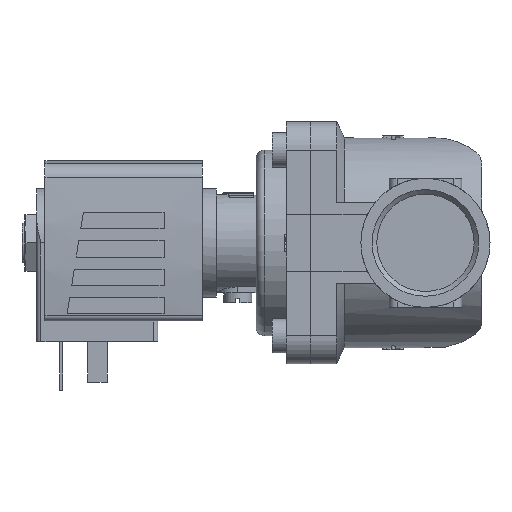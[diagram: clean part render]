
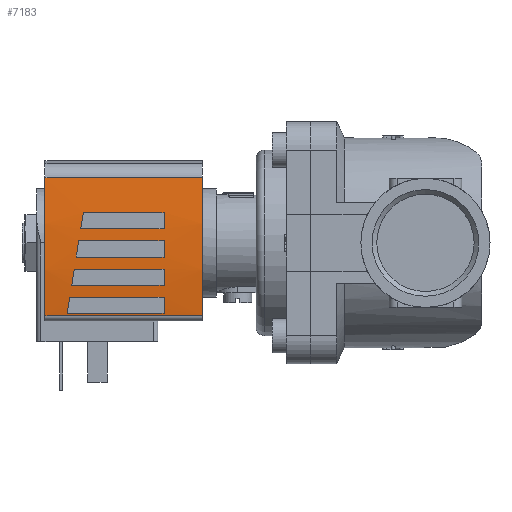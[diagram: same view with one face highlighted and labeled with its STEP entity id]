
A CAD part, left-side view. The second image highlights one B-rep face of the part: STEP entity #7183.
In plain terms, the highlighted cylindrical face has radius 130 mm (diameter 260 mm), a partial arc.
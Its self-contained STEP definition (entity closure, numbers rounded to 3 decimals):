
#167=ELLIPSE('',#7777,131.653,130.);
#168=ELLIPSE('',#7779,131.653,130.);
#169=ELLIPSE('',#7782,131.653,130.);
#170=ELLIPSE('',#7784,131.653,130.);
#809=LINE('',#11265,#1323);
#811=LINE('',#11285,#1325);
#812=LINE('',#11289,#1326);
#813=LINE('',#11290,#1327);
#814=LINE('',#11295,#1328);
#815=LINE('',#11300,#1329);
#816=LINE('',#11304,#1330);
#817=LINE('',#11308,#1331);
#818=LINE('',#11312,#1332);
#819=LINE('',#11316,#1333);
#1323=VECTOR('',#9256,1000.);
#1325=VECTOR('',#9278,1000.);
#1326=VECTOR('',#9281,1000.);
#1327=VECTOR('',#9282,1000.);
#1328=VECTOR('',#9285,1000.);
#1329=VECTOR('',#9290,1000.);
#1330=VECTOR('',#9293,1000.);
#1331=VECTOR('',#9296,1000.);
#1332=VECTOR('',#9299,1000.);
#1333=VECTOR('',#9302,1000.);
#2763=ORIENTED_EDGE('',*,*,#3828,.F.);
#2764=ORIENTED_EDGE('',*,*,#3829,.F.);
#2765=ORIENTED_EDGE('',*,*,#3830,.F.);
#2766=ORIENTED_EDGE('',*,*,#3831,.F.);
#2767=ORIENTED_EDGE('',*,*,#3832,.F.);
#2768=ORIENTED_EDGE('',*,*,#3833,.F.);
#2769=ORIENTED_EDGE('',*,*,#3834,.F.);
#2770=ORIENTED_EDGE('',*,*,#3835,.F.);
#2771=ORIENTED_EDGE('',*,*,#3836,.T.);
#2772=ORIENTED_EDGE('',*,*,#3837,.F.);
#2773=ORIENTED_EDGE('',*,*,#3822,.F.);
#2774=ORIENTED_EDGE('',*,*,#3819,.T.);
#2775=ORIENTED_EDGE('',*,*,#3838,.F.);
#2776=ORIENTED_EDGE('',*,*,#3839,.F.);
#2777=ORIENTED_EDGE('',*,*,#3840,.F.);
#2778=ORIENTED_EDGE('',*,*,#3841,.F.);
#2779=ORIENTED_EDGE('',*,*,#3842,.F.);
#2780=ORIENTED_EDGE('',*,*,#3843,.F.);
#2781=ORIENTED_EDGE('',*,*,#3844,.F.);
#2782=ORIENTED_EDGE('',*,*,#3845,.F.);
#3819=EDGE_CURVE('',#4459,#4458,#809,.T.);
#3822=EDGE_CURVE('',#4459,#4461,#4749,.T.);
#3828=EDGE_CURVE('',#4465,#4466,#167,.T.);
#3829=EDGE_CURVE('',#4467,#4465,#811,.F.);
#3830=EDGE_CURVE('',#4468,#4467,#4754,.T.);
#3831=EDGE_CURVE('',#4466,#4468,#812,.T.);
#3832=EDGE_CURVE('',#4469,#4470,#813,.T.);
#3833=EDGE_CURVE('',#4471,#4469,#168,.T.);
#3834=EDGE_CURVE('',#4472,#4471,#814,.F.);
#3835=EDGE_CURVE('',#4470,#4472,#4755,.T.);
#3836=EDGE_CURVE('',#4458,#4473,#4756,.T.);
#3837=EDGE_CURVE('',#4461,#4473,#815,.T.);
#3838=EDGE_CURVE('',#4474,#4475,#169,.T.);
#3839=EDGE_CURVE('',#4476,#4474,#816,.F.);
#3840=EDGE_CURVE('',#4477,#4476,#4757,.T.);
#3841=EDGE_CURVE('',#4475,#4477,#817,.T.);
#3842=EDGE_CURVE('',#4478,#4479,#170,.T.);
#3843=EDGE_CURVE('',#4480,#4478,#818,.F.);
#3844=EDGE_CURVE('',#4481,#4480,#4758,.T.);
#3845=EDGE_CURVE('',#4479,#4481,#819,.T.);
#4458=VERTEX_POINT('',#11264);
#4459=VERTEX_POINT('',#11266);
#4461=VERTEX_POINT('',#11272);
#4465=VERTEX_POINT('',#11283);
#4466=VERTEX_POINT('',#11284);
#4467=VERTEX_POINT('',#11286);
#4468=VERTEX_POINT('',#11288);
#4469=VERTEX_POINT('',#11291);
#4470=VERTEX_POINT('',#11292);
#4471=VERTEX_POINT('',#11294);
#4472=VERTEX_POINT('',#11296);
#4473=VERTEX_POINT('',#11299);
#4474=VERTEX_POINT('',#11302);
#4475=VERTEX_POINT('',#11303);
#4476=VERTEX_POINT('',#11305);
#4477=VERTEX_POINT('',#11307);
#4478=VERTEX_POINT('',#11310);
#4479=VERTEX_POINT('',#11311);
#4480=VERTEX_POINT('',#11313);
#4481=VERTEX_POINT('',#11315);
#4749=CIRCLE('',#7771,130.);
#4754=CIRCLE('',#7778,130.);
#4755=CIRCLE('',#7780,130.);
#4756=CIRCLE('',#7781,130.);
#4757=CIRCLE('',#7783,130.);
#4758=CIRCLE('',#7785,130.);
#5084=EDGE_LOOP('',(#2763,#2764,#2765,#2766));
#5085=EDGE_LOOP('',(#2767,#2768,#2769,#2770));
#5086=EDGE_LOOP('',(#2771,#2772,#2773,#2774));
#5087=EDGE_LOOP('',(#2775,#2776,#2777,#2778));
#5088=EDGE_LOOP('',(#2779,#2780,#2781,#2782));
#5488=FACE_BOUND('',#5084,.T.);
#5489=FACE_BOUND('',#5085,.T.);
#5490=FACE_BOUND('',#5086,.T.);
#5491=FACE_BOUND('',#5087,.T.);
#5492=FACE_BOUND('',#5088,.T.);
#5663=CYLINDRICAL_SURFACE('',#7776,130.);
#7183=ADVANCED_FACE('',(#5488,#5489,#5490,#5491,#5492),#5663,.T.);
#7771=AXIS2_PLACEMENT_3D('',#11271,#9263,#9264);
#7776=AXIS2_PLACEMENT_3D('',#11281,#9274,#9275);
#7777=AXIS2_PLACEMENT_3D('',#11282,#9276,#9277);
#7778=AXIS2_PLACEMENT_3D('',#11287,#9279,#9280);
#7779=AXIS2_PLACEMENT_3D('',#11293,#9283,#9284);
#7780=AXIS2_PLACEMENT_3D('',#11297,#9286,#9287);
#7781=AXIS2_PLACEMENT_3D('',#11298,#9288,#9289);
#7782=AXIS2_PLACEMENT_3D('',#11301,#9291,#9292);
#7783=AXIS2_PLACEMENT_3D('',#11306,#9294,#9295);
#7784=AXIS2_PLACEMENT_3D('',#11309,#9297,#9298);
#7785=AXIS2_PLACEMENT_3D('',#11314,#9300,#9301);
#9256=DIRECTION('',(0.,-1.,0.));
#9263=DIRECTION('',(0.,1.,0.));
#9264=DIRECTION('',(1.,0.,0.));
#9274=DIRECTION('',(0.,-1.,0.));
#9275=DIRECTION('',(0.,0.,-1.));
#9276=DIRECTION('',(-0.158,-0.987,0.));
#9277=DIRECTION('',(0.987,-0.158,0.));
#9278=DIRECTION('',(0.,-1.,0.));
#9279=DIRECTION('',(0.,1.,0.));
#9280=DIRECTION('',(0.,0.,1.));
#9281=DIRECTION('',(0.,-1.,0.));
#9282=DIRECTION('',(0.,-1.,0.));
#9283=DIRECTION('',(-0.158,-0.987,0.));
#9284=DIRECTION('',(0.987,-0.158,0.));
#9285=DIRECTION('',(0.,-1.,0.));
#9286=DIRECTION('',(0.,1.,0.));
#9287=DIRECTION('',(0.,0.,1.));
#9288=DIRECTION('',(0.,1.,0.));
#9289=DIRECTION('',(1.,0.,0.));
#9290=DIRECTION('',(0.,-1.,0.));
#9291=DIRECTION('',(-0.158,-0.987,0.));
#9292=DIRECTION('',(0.987,-0.158,0.));
#9293=DIRECTION('',(0.,-1.,0.));
#9294=DIRECTION('',(0.,1.,0.));
#9295=DIRECTION('',(0.,0.,1.));
#9296=DIRECTION('',(0.,-1.,0.));
#9297=DIRECTION('',(-0.158,-0.987,0.));
#9298=DIRECTION('',(0.987,-0.158,0.));
#9299=DIRECTION('',(0.,-1.,0.));
#9300=DIRECTION('',(0.,1.,0.));
#9301=DIRECTION('',(0.,0.,1.));
#9302=DIRECTION('',(0.,-1.,0.));
#11264=CARTESIAN_POINT('',(-18.071,-26.,14.738));
#11265=CARTESIAN_POINT('',(-18.071,13.,14.738));
#11266=CARTESIAN_POINT('',(-18.071,13.,14.738));
#11271=CARTESIAN_POINT('',(0.,13.,-114.));
#11272=CARTESIAN_POINT('',(16.195,13.,14.987));
#11281=CARTESIAN_POINT('',(0.,13.,-114.));
#11282=CARTESIAN_POINT('',(0.,4.7,-114.));
#11283=CARTESIAN_POINT('',(0.5,4.62,15.999));
#11284=CARTESIAN_POINT('',(-3.5,5.26,15.953));
#11285=CARTESIAN_POINT('',(0.5,13.,15.999));
#11286=CARTESIAN_POINT('',(0.5,-16.5,15.999));
#11287=CARTESIAN_POINT('',(0.,-16.5,-114.));
#11288=CARTESIAN_POINT('',(-3.5,-16.5,15.953));
#11289=CARTESIAN_POINT('',(-3.5,13.,15.953));
#11290=CARTESIAN_POINT('',(-17.5,13.,14.817));
#11291=CARTESIAN_POINT('',(-17.5,7.5,14.817));
#11292=CARTESIAN_POINT('',(-17.5,-16.5,14.817));
#11293=CARTESIAN_POINT('',(0.,4.7,-114.));
#11294=CARTESIAN_POINT('',(-13.5,6.86,15.297));
#11295=CARTESIAN_POINT('',(-13.5,13.,15.297));
#11296=CARTESIAN_POINT('',(-13.5,-16.5,15.297));
#11297=CARTESIAN_POINT('',(0.,-16.5,-114.));
#11298=CARTESIAN_POINT('',(0.,-26.,-114.));
#11299=CARTESIAN_POINT('',(16.195,-26.,14.987));
#11300=CARTESIAN_POINT('',(16.195,13.,14.987));
#11301=CARTESIAN_POINT('',(0.,4.7,-114.));
#11302=CARTESIAN_POINT('',(-6.5,5.74,15.837));
#11303=CARTESIAN_POINT('',(-10.5,6.38,15.575));
#11304=CARTESIAN_POINT('',(-6.5,13.,15.837));
#11305=CARTESIAN_POINT('',(-6.5,-16.5,15.837));
#11306=CARTESIAN_POINT('',(0.,-16.5,-114.));
#11307=CARTESIAN_POINT('',(-10.5,-16.5,15.575));
#11308=CARTESIAN_POINT('',(-10.5,13.,15.575));
#11309=CARTESIAN_POINT('',(0.,4.7,-114.));
#11310=CARTESIAN_POINT('',(7.5,3.5,15.783));
#11311=CARTESIAN_POINT('',(3.5,4.14,15.953));
#11312=CARTESIAN_POINT('',(7.5,13.,15.783));
#11313=CARTESIAN_POINT('',(7.5,-16.5,15.783));
#11314=CARTESIAN_POINT('',(0.,-16.5,-114.));
#11315=CARTESIAN_POINT('',(3.5,-16.5,15.953));
#11316=CARTESIAN_POINT('',(3.5,13.,15.953));
